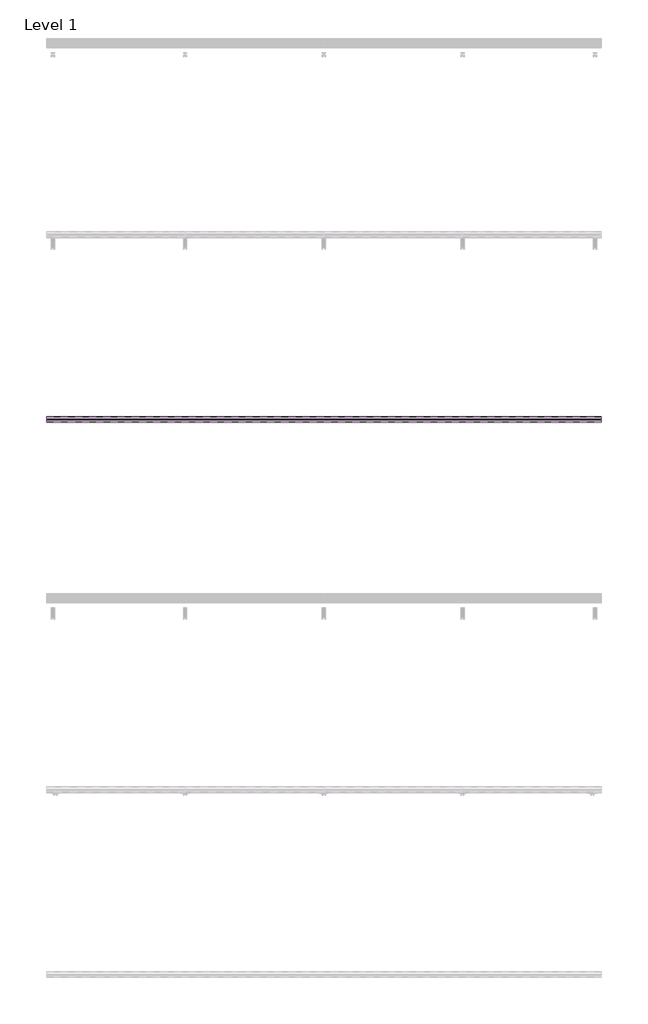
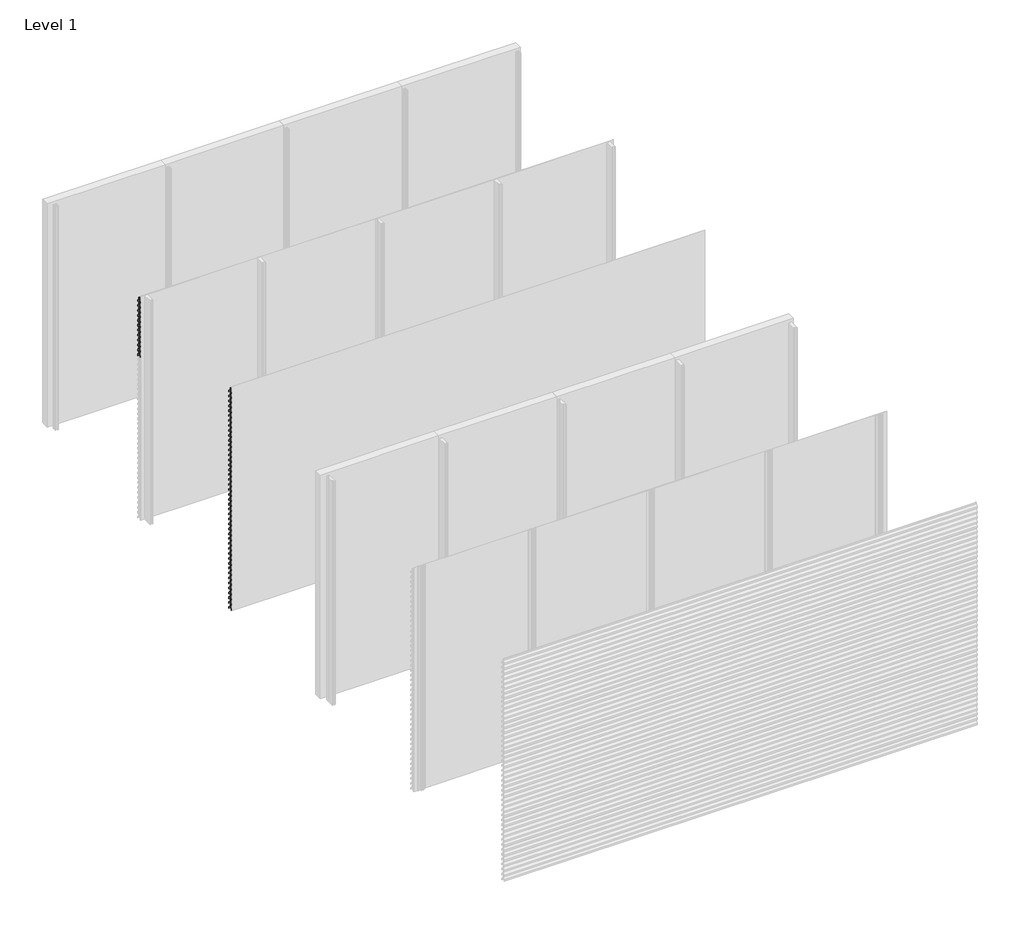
# One storey, part 6 of 35: 70 proxies.
"""IFC4 building model written with IfcOpenShell, lengths in millimetres."""

import ifcopenshell
import ifcopenshell.guid

model = None  # the IFC model being written
_history = None  # IfcOwnerHistory: only IFC2X3 demands one
_inside = {}  # id of a spatial element -> (the spatial element, [elements in it])
_under = {}  # id of a project, library or spatial element -> (it, [spatial elements below it])
_declared = {}  # id of a project -> (the project, [libraries it declares])
_typed = {}  # id of a type object -> (the type object, [elements of that type])
_made_of = {}  # id of a material, layer set ... -> (it, [elements and type objects made of it])


def new_model(schema):
    """Start an empty IFC model of exactly this schema.

    Asked for "IFC4X3", IfcOpenShell would pick the latest addendum, in which some entities
    have other attributes; the version numbers below select the first issue.
    IFC2X3 requires an IfcOwnerHistory on every rooted entity: one is made here for all.
    """
    global model, _history
    if schema == "IFC4X3":
        model = ifcopenshell.file(schema_version=(4, 3, 0, 0))
    else:
        model = ifcopenshell.file(schema=schema)
    _inside.clear()
    _under.clear()
    _declared.clear()
    _typed.clear()
    _made_of.clear()
    _history = None
    if model.schema == "IFC2X3":
        org = make("IfcOrganization", Name="unknown")
        user = make(
            "IfcPersonAndOrganization",
            ThePerson=make("IfcPerson", FamilyName="unknown"),
            TheOrganization=org,
        )
        app = make(
            "IfcApplication",
            ApplicationDeveloper=org,
            Version="unknown",
            ApplicationFullName="unknown",
            ApplicationIdentifier="unknown",
        )
        _history = make(
            "IfcOwnerHistory",
            OwningUser=user,
            OwningApplication=app,
            ChangeAction="ADDED",
            CreationDate=0,
        )
    return model


def make(cls, **values):
    """One entity of the class cls with the attributes given. An attribute that is None is left unset."""
    return model.create_entity(
        cls, **{name: value for name, value in values.items() if value is not None}
    )


def rooted(cls, **values):
    """An entity with a GlobalId (a new one), such as an element, a storey or a relation."""
    return make(cls, GlobalId=ifcopenshell.guid.new(), OwnerHistory=_history, **values)


def si_unit(unit_type, name, prefix=None):
    """IfcSIUnit, for example si_unit("LENGTHUNIT", "METRE", prefix="MILLI")."""
    return make("IfcSIUnit", UnitType=unit_type, Prefix=prefix, Name=name)


def assignment(units):
    """IfcUnitAssignment: the units of a project."""
    return None if units is None else make("IfcUnitAssignment", Units=units)


def point(xyz):
    """IfcCartesianPoint."""
    return None if xyz is None else make("IfcCartesianPoint", Coordinates=xyz)


def direction(xyz):
    """IfcDirection."""
    return None if xyz is None else make("IfcDirection", DirectionRatios=xyz)


def frame(location, z_axis=None, x_axis=None):
    """IfcAxis2Placement3D, a coordinate frame: its origin and axes. An axis left out is left unset."""
    return make(
        "IfcAxis2Placement3D",
        Location=point(location),
        Axis=direction(z_axis),
        RefDirection=direction(x_axis),
    )


def origin():
    """The frame at (0, 0, 0) with its axes left unset."""
    return frame((0.0, 0.0, 0.0))


def place(relative_to, where):
    """IfcLocalPlacement: puts the frame where relative to a parent placement (None: the world)."""
    return make(
        "IfcLocalPlacement", PlacementRelTo=relative_to, RelativePlacement=where
    )


def context(
    kind, dimensions, precision=None, world=None, true_north=None, identifier=None
):
    """IfcGeometricRepresentationContext, for example the 3D "Model" context."""
    return make(
        "IfcGeometricRepresentationContext",
        ContextIdentifier=identifier,
        ContextType=kind,
        CoordinateSpaceDimension=dimensions,
        Precision=precision,
        WorldCoordinateSystem=world,
        TrueNorth=true_north,
    )


def project(units=None, contexts=None):
    """IfcProject with its units and contexts."""
    return rooted(
        "IfcProject",
        Name="project",
        RepresentationContexts=contexts,
        UnitsInContext=assignment(units),
    )


def spatial(cls, under=None, at=None, **own):
    """A site, building, storey or space (cls), placed at a placement, below another one or the project."""
    s = rooted(cls, ObjectPlacement=at, **own)
    if under is not None:
        _under.setdefault(under.id(), (under, []))[1].append(s)
    return s


def polyline(points):
    """IfcPolyline through the points."""
    return make("IfcPolyline", Points=[point(p) for p in points])


def outline(outer, holes=None, kind="AREA"):
    """IfcArbitraryClosedProfileDef: a profile drawn as a closed curve; with holes, ...WithVoids."""
    if holes is None:
        return make("IfcArbitraryClosedProfileDef", ProfileType=kind, OuterCurve=outer)
    return make(
        "IfcArbitraryProfileDefWithVoids",
        ProfileType=kind,
        OuterCurve=outer,
        InnerCurves=holes,
    )


def extrude(swept, where, along, depth):
    """IfcExtrudedAreaSolid: the profile swept, set in the frame where, extruded along a direction by depth."""
    return make(
        "IfcExtrudedAreaSolid",
        SweptArea=swept,
        Position=where,
        ExtrudedDirection=direction(along),
        Depth=depth,
    )


def shape(context_of_items, identifier, shape_type, items):
    """IfcShapeRepresentation: the items that make up one representation, for example the "Body"."""
    return make(
        "IfcShapeRepresentation",
        ContextOfItems=context_of_items,
        RepresentationIdentifier=identifier,
        RepresentationType=shape_type,
        Items=items,
    )


def made_of(thing, what):
    """Note that an element or type object is made of a material, layer set ...; save() writes the relation."""
    if what is not None:
        _made_of.setdefault(what.id(), (what, []))[1].append(thing)
    return thing


def element(
    cls,
    number,
    at=None,
    inside=None,
    cuts=None,
    type_object=None,
    material=None,
    context=None,
    identifier="Body",
    shape_type=None,
    held_by="IfcProductDefinitionShape",
    body=None,
    shapes=None,
    **own,
):
    """One element of the class cls, such as IfcWall. Its Tag is "e" and its number.

    at: its placement. inside: the storey or other place that contains it. cuts: it is an
    opening in that element (IfcRelVoidsElement). A single representation is given by context,
    identifier, shape_type and body (its items); several are given by shapes. held_by: the class
    of the entity that holds the representations. save() writes the other relations.
    """
    e = rooted(cls, Tag="e%d" % number, ObjectPlacement=at, **own)
    if body is not None:
        shapes = [shape(context, identifier, shape_type, body)]
    if shapes is not None:
        e.Representation = make(held_by, Representations=shapes)
    if inside is not None:
        _inside.setdefault(inside.id(), (inside, []))[1].append(e)
    if cuts is not None:
        rooted(
            "IfcRelVoidsElement", RelatingBuildingElement=cuts, RelatedOpeningElement=e
        )
    if type_object is not None:
        _typed.setdefault(type_object.id(), (type_object, []))[1].append(e)
    return made_of(e, material)


def aggregate(whole, parts):
    """IfcRelAggregates: a whole, such as a stair, and the parts it consists of."""
    return rooted("IfcRelAggregates", RelatingObject=whole, RelatedObjects=parts)


def save(model, path):
    """Write the relations noted so far, then the file.

    IfcRelAggregates (storeys below a building ...), IfcRelContainedInSpatialStructure (elements
    in a storey), IfcRelDefinesByType, IfcRelAssociatesMaterial and IfcRelDeclares: one each for
    every whole, place, type object, material and project.
    """
    for whole, parts in _under.values():
        aggregate(whole, parts)
    for where, things in _inside.values():
        rooted(
            "IfcRelContainedInSpatialStructure",
            RelatedElements=things,
            RelatingStructure=where,
        )
    for kind, things in _typed.values():
        rooted("IfcRelDefinesByType", RelatedObjects=things, RelatingType=kind)
    for what, things in _made_of.values():
        rooted("IfcRelAssociatesMaterial", RelatedObjects=things, RelatingMaterial=what)
    for by, libraries in _declared.values():
        rooted("IfcRelDeclares", RelatingContext=by, RelatedDefinitions=libraries)
    model.write(path)


model = new_model("IFC4")

# Units and contexts
model_context = context("Model", 3, world=origin())
ifc_project = project(units=[si_unit("LENGTHUNIT", "METRE", prefix="MILLI")], contexts=[model_context])

# Site, building, storey
site = spatial("IfcSite", under=ifc_project)
building = spatial("IfcBuilding", under=site)
storey = spatial("IfcBuildingStorey", under=building, Name="Level 1", Elevation=0.0)

# Proxies
placement = place(None, origin())
element("IfcBuildingElementProxy", 1, Name="Wall Sweeps", at=placement, inside=storey, context=model_context, shape_type="SweptSolid", body=[
    extrude(outline(polyline([(-47936.0, 2916.0), (-47936.0, 2896.0), (-47937.25, 2896.0), (-47937.25, 2915.4342979), (-47968.1138939, 2948.531772), (-47996.7, 2928.4392868), (-47996.7, 2909.6629874), (-47998.0, 2908.8506572), (-47998.0, 2929.1145472), (-47968.537525, 2949.823011), (-47968.537525, 2970.0), (-47967.1772624, 2970.0), (-47967.1772624, 2949.4335207), (-47936.0, 2916.0)])), frame((0.0, 0.0, 0.0), z_axis=(1.0, 0.0, 0.0), x_axis=(0.0, 1.0, 0.0)), (0.0, 0.0, 1.0), 1500.0),
])
element("IfcBuildingElementProxy", 2, Name="Wall Sweeps", at=placement, inside=storey, context=model_context, shape_type="SweptSolid", body=[
    extrude(outline(polyline([(-47936.0, 2850.0), (-47936.0, 2830.0), (-47937.25, 2830.0), (-47937.25, 2849.4342979), (-47968.1138939, 2882.531772), (-47996.7, 2862.4392868), (-47996.7, 2843.6629874), (-47998.0, 2842.8506572), (-47998.0, 2863.1145472), (-47968.537525, 2883.823011), (-47968.537525, 2904.0), (-47967.1772624, 2904.0), (-47967.1772624, 2883.4335207), (-47936.0, 2850.0)])), frame((0.0, 0.0, 0.0), z_axis=(1.0, 0.0, 0.0), x_axis=(0.0, 1.0, 0.0)), (0.0, 0.0, 1.0), 1500.0),
])
element("IfcBuildingElementProxy", 3, Name="Wall Sweeps", at=placement, inside=storey, context=model_context, shape_type="SweptSolid", body=[
    extrude(outline(polyline([(-47936.0, 2784.0), (-47936.0, 2764.0), (-47937.25, 2764.0), (-47937.25, 2783.4342979), (-47968.1138939, 2816.531772), (-47996.7, 2796.4392868), (-47996.7, 2777.6629874), (-47998.0, 2776.8506572), (-47998.0, 2797.1145472), (-47968.537525, 2817.823011), (-47968.537525, 2838.0), (-47967.1772624, 2838.0), (-47967.1772624, 2817.4335207), (-47936.0, 2784.0)])), frame((0.0, 0.0, 0.0), z_axis=(1.0, 0.0, 0.0), x_axis=(0.0, 1.0, 0.0)), (0.0, 0.0, 1.0), 1500.0),
])
element("IfcBuildingElementProxy", 4, Name="Wall Sweeps", at=placement, inside=storey, context=model_context, shape_type="SweptSolid", body=[
    extrude(outline(polyline([(-47936.0, 2718.0), (-47936.0, 2698.0), (-47937.25, 2698.0), (-47937.25, 2717.4342979), (-47968.1138939, 2750.531772), (-47996.7, 2730.4392868), (-47996.7, 2711.6629874), (-47998.0, 2710.8506572), (-47998.0, 2731.1145472), (-47968.537525, 2751.823011), (-47968.537525, 2772.0), (-47967.1772624, 2772.0), (-47967.1772624, 2751.4335207), (-47936.0, 2718.0)])), frame((0.0, 0.0, 0.0), z_axis=(1.0, 0.0, 0.0), x_axis=(0.0, 1.0, 0.0)), (0.0, 0.0, 1.0), 1500.0),
])
element("IfcBuildingElementProxy", 5, Name="Wall Sweeps", at=placement, inside=storey, context=model_context, shape_type="SweptSolid", body=[
    extrude(outline(polyline([(-47936.0, 2652.0), (-47936.0, 2632.0), (-47937.25, 2632.0), (-47937.25, 2651.4342979), (-47968.1138939, 2684.531772), (-47996.7, 2664.4392868), (-47996.7, 2645.6629874), (-47998.0, 2644.8506572), (-47998.0, 2665.1145472), (-47968.537525, 2685.823011), (-47968.537525, 2706.0), (-47967.1772624, 2706.0), (-47967.1772624, 2685.4335207), (-47936.0, 2652.0)])), frame((0.0, 0.0, 0.0), z_axis=(1.0, 0.0, 0.0), x_axis=(0.0, 1.0, 0.0)), (0.0, 0.0, 1.0), 1500.0),
])
element("IfcBuildingElementProxy", 6, Name="Wall Sweeps", at=placement, inside=storey, context=model_context, shape_type="SweptSolid", body=[
    extrude(outline(polyline([(-47936.0, 2586.0), (-47936.0, 2566.0), (-47937.25, 2566.0), (-47937.25, 2585.4342979), (-47968.1138939, 2618.531772), (-47996.7, 2598.4392868), (-47996.7, 2579.6629874), (-47998.0, 2578.8506572), (-47998.0, 2599.1145472), (-47968.537525, 2619.823011), (-47968.537525, 2640.0), (-47967.1772624, 2640.0), (-47967.1772624, 2619.4335207), (-47936.0, 2586.0)])), frame((0.0, 0.0, 0.0), z_axis=(1.0, 0.0, 0.0), x_axis=(0.0, 1.0, 0.0)), (0.0, 0.0, 1.0), 1500.0),
])
element("IfcBuildingElementProxy", 7, Name="Wall Sweeps", at=placement, inside=storey, context=model_context, shape_type="SweptSolid", body=[
    extrude(outline(polyline([(-47936.0, 2520.0), (-47936.0, 2500.0), (-47937.25, 2500.0), (-47937.25, 2519.4342979), (-47968.1138939, 2552.531772), (-47996.7, 2532.4392868), (-47996.7, 2513.6629874), (-47998.0, 2512.8506572), (-47998.0, 2533.1145472), (-47968.537525, 2553.823011), (-47968.537525, 2574.0), (-47967.1772624, 2574.0), (-47967.1772624, 2553.4335207), (-47936.0, 2520.0)])), frame((0.0, 0.0, 0.0), z_axis=(1.0, 0.0, 0.0), x_axis=(0.0, 1.0, 0.0)), (0.0, 0.0, 1.0), 1500.0),
])
element("IfcBuildingElementProxy", 8, Name="Wall Sweeps", at=placement, inside=storey, context=model_context, shape_type="SweptSolid", body=[
    extrude(outline(polyline([(-47936.0, 2454.0), (-47936.0, 2434.0), (-47937.25, 2434.0), (-47937.25, 2453.4342979), (-47968.1138939, 2486.531772), (-47996.7, 2466.4392868), (-47996.7, 2447.6629874), (-47998.0, 2446.8506572), (-47998.0, 2467.1145472), (-47968.537525, 2487.823011), (-47968.537525, 2508.0), (-47967.1772624, 2508.0), (-47967.1772624, 2487.4335207), (-47936.0, 2454.0)])), frame((0.0, 0.0, 0.0), z_axis=(1.0, 0.0, 0.0), x_axis=(0.0, 1.0, 0.0)), (0.0, 0.0, 1.0), 1500.0),
])
element("IfcBuildingElementProxy", 9, Name="Wall Sweeps", at=placement, inside=storey, context=model_context, shape_type="SweptSolid", body=[
    extrude(outline(polyline([(-47936.0, 2388.0), (-47936.0, 2368.0), (-47937.25, 2368.0), (-47937.25, 2387.4342979), (-47968.1138939, 2420.531772), (-47996.7, 2400.4392868), (-47996.7, 2381.6629874), (-47998.0, 2380.8506572), (-47998.0, 2401.1145472), (-47968.537525, 2421.823011), (-47968.537525, 2442.0), (-47967.1772624, 2442.0), (-47967.1772624, 2421.4335207), (-47936.0, 2388.0)])), frame((0.0, 0.0, 0.0), z_axis=(1.0, 0.0, 0.0), x_axis=(0.0, 1.0, 0.0)), (0.0, 0.0, 1.0), 1500.0),
])
element("IfcBuildingElementProxy", 10, Name="Wall Sweeps", at=placement, inside=storey, context=model_context, shape_type="SweptSolid", body=[
    extrude(outline(polyline([(-47936.0, 2322.0), (-47936.0, 2302.0), (-47937.25, 2302.0), (-47937.25, 2321.4342979), (-47968.1138939, 2354.531772), (-47996.7, 2334.4392868), (-47996.7, 2315.6629874), (-47998.0, 2314.8506572), (-47998.0, 2335.1145472), (-47968.537525, 2355.823011), (-47968.537525, 2376.0), (-47967.1772624, 2376.0), (-47967.1772624, 2355.4335207), (-47936.0, 2322.0)])), frame((0.0, 0.0, 0.0), z_axis=(1.0, 0.0, 0.0), x_axis=(0.0, 1.0, 0.0)), (0.0, 0.0, 1.0), 1500.0),
])
element("IfcBuildingElementProxy", 11, Name="Wall Sweeps", at=placement, inside=storey, context=model_context, shape_type="SweptSolid", body=[
    extrude(outline(polyline([(-47936.0, 2256.0), (-47936.0, 2236.0), (-47937.25, 2236.0), (-47937.25, 2255.4342979), (-47968.1138939, 2288.531772), (-47996.7, 2268.4392868), (-47996.7, 2249.6629874), (-47998.0, 2248.8506572), (-47998.0, 2269.1145472), (-47968.537525, 2289.823011), (-47968.537525, 2310.0), (-47967.1772624, 2310.0), (-47967.1772624, 2289.4335207), (-47936.0, 2256.0)])), frame((0.0, 0.0, 0.0), z_axis=(1.0, 0.0, 0.0), x_axis=(0.0, 1.0, 0.0)), (0.0, 0.0, 1.0), 1500.0),
])
element("IfcBuildingElementProxy", 12, Name="Wall Sweeps", at=placement, inside=storey, context=model_context, shape_type="SweptSolid", body=[
    extrude(outline(polyline([(-47936.0, 2190.0), (-47936.0, 2170.0), (-47937.25, 2170.0), (-47937.25, 2189.4342979), (-47968.1138939, 2222.531772), (-47996.7, 2202.4392868), (-47996.7, 2183.6629874), (-47998.0, 2182.8506572), (-47998.0, 2203.1145472), (-47968.537525, 2223.823011), (-47968.537525, 2244.0), (-47967.1772624, 2244.0), (-47967.1772624, 2223.4335207), (-47936.0, 2190.0)])), frame((0.0, 0.0, 0.0), z_axis=(1.0, 0.0, 0.0), x_axis=(0.0, 1.0, 0.0)), (0.0, 0.0, 1.0), 1500.0),
])
element("IfcBuildingElementProxy", 13, Name="Wall Sweeps", at=placement, inside=storey, context=model_context, shape_type="SweptSolid", body=[
    extrude(outline(polyline([(-49936.0, 2916.0), (-49936.0, 2896.0), (-49937.25, 2896.0), (-49937.25, 2915.4342979), (-49968.1138939, 2948.531772), (-49996.7, 2928.4392868), (-49996.7, 2909.6629874), (-49998.0, 2908.8506572), (-49998.0, 2929.1145472), (-49968.537525, 2949.823011), (-49968.537525, 2970.0), (-49967.1772624, 2970.0), (-49967.1772624, 2949.4335207), (-49936.0, 2916.0)])), frame((0.0, 0.0, 0.0), z_axis=(1.0, 0.0, 0.0), x_axis=(0.0, 1.0, 0.0)), (0.0, 0.0, 1.0), 6000.0),
])
element("IfcBuildingElementProxy", 14, Name="Wall Sweeps", at=placement, inside=storey, context=model_context, shape_type="SweptSolid", body=[
    extrude(outline(polyline([(-49936.0, 2850.0), (-49936.0, 2830.0), (-49937.25, 2830.0), (-49937.25, 2849.4342979), (-49968.1138939, 2882.531772), (-49996.7, 2862.4392868), (-49996.7, 2843.6629874), (-49998.0, 2842.8506572), (-49998.0, 2863.1145472), (-49968.537525, 2883.823011), (-49968.537525, 2904.0), (-49967.1772624, 2904.0), (-49967.1772624, 2883.4335207), (-49936.0, 2850.0)])), frame((0.0, 0.0, 0.0), z_axis=(1.0, 0.0, 0.0), x_axis=(0.0, 1.0, 0.0)), (0.0, 0.0, 1.0), 6000.0),
])
element("IfcBuildingElementProxy", 15, Name="Wall Sweeps", at=placement, inside=storey, context=model_context, shape_type="SweptSolid", body=[
    extrude(outline(polyline([(-49936.0, 2784.0), (-49936.0, 2764.0), (-49937.25, 2764.0), (-49937.25, 2783.4342979), (-49968.1138939, 2816.531772), (-49996.7, 2796.4392868), (-49996.7, 2777.6629874), (-49998.0, 2776.8506572), (-49998.0, 2797.1145472), (-49968.537525, 2817.823011), (-49968.537525, 2838.0), (-49967.1772624, 2838.0), (-49967.1772624, 2817.4335207), (-49936.0, 2784.0)])), frame((0.0, 0.0, 0.0), z_axis=(1.0, 0.0, 0.0), x_axis=(0.0, 1.0, 0.0)), (0.0, 0.0, 1.0), 6000.0),
])
element("IfcBuildingElementProxy", 16, Name="Wall Sweeps", at=placement, inside=storey, context=model_context, shape_type="SweptSolid", body=[
    extrude(outline(polyline([(-49936.0, 2718.0), (-49936.0, 2698.0), (-49937.25, 2698.0), (-49937.25, 2717.4342979), (-49968.1138939, 2750.531772), (-49996.7, 2730.4392868), (-49996.7, 2711.6629874), (-49998.0, 2710.8506572), (-49998.0, 2731.1145472), (-49968.537525, 2751.823011), (-49968.537525, 2772.0), (-49967.1772624, 2772.0), (-49967.1772624, 2751.4335207), (-49936.0, 2718.0)])), frame((0.0, 0.0, 0.0), z_axis=(1.0, 0.0, 0.0), x_axis=(0.0, 1.0, 0.0)), (0.0, 0.0, 1.0), 6000.0),
])
element("IfcBuildingElementProxy", 17, Name="Wall Sweeps", at=placement, inside=storey, context=model_context, shape_type="SweptSolid", body=[
    extrude(outline(polyline([(-49936.0, 2652.0), (-49936.0, 2632.0), (-49937.25, 2632.0), (-49937.25, 2651.4342979), (-49968.1138939, 2684.531772), (-49996.7, 2664.4392868), (-49996.7, 2645.6629874), (-49998.0, 2644.8506572), (-49998.0, 2665.1145472), (-49968.537525, 2685.823011), (-49968.537525, 2706.0), (-49967.1772624, 2706.0), (-49967.1772624, 2685.4335207), (-49936.0, 2652.0)])), frame((0.0, 0.0, 0.0), z_axis=(1.0, 0.0, 0.0), x_axis=(0.0, 1.0, 0.0)), (0.0, 0.0, 1.0), 6000.0),
])
element("IfcBuildingElementProxy", 18, Name="Wall Sweeps", at=placement, inside=storey, context=model_context, shape_type="SweptSolid", body=[
    extrude(outline(polyline([(-49936.0, 2586.0), (-49936.0, 2566.0), (-49937.25, 2566.0), (-49937.25, 2585.4342979), (-49968.1138939, 2618.531772), (-49996.7, 2598.4392868), (-49996.7, 2579.6629874), (-49998.0, 2578.8506572), (-49998.0, 2599.1145472), (-49968.537525, 2619.823011), (-49968.537525, 2640.0), (-49967.1772624, 2640.0), (-49967.1772624, 2619.4335207), (-49936.0, 2586.0)])), frame((0.0, 0.0, 0.0), z_axis=(1.0, 0.0, 0.0), x_axis=(0.0, 1.0, 0.0)), (0.0, 0.0, 1.0), 6000.0),
])
element("IfcBuildingElementProxy", 19, Name="Wall Sweeps", at=placement, inside=storey, context=model_context, shape_type="SweptSolid", body=[
    extrude(outline(polyline([(-49936.0, 2520.0), (-49936.0, 2500.0), (-49937.25, 2500.0), (-49937.25, 2519.4342979), (-49968.1138939, 2552.531772), (-49996.7, 2532.4392868), (-49996.7, 2513.6629874), (-49998.0, 2512.8506572), (-49998.0, 2533.1145472), (-49968.537525, 2553.823011), (-49968.537525, 2574.0), (-49967.1772624, 2574.0), (-49967.1772624, 2553.4335207), (-49936.0, 2520.0)])), frame((0.0, 0.0, 0.0), z_axis=(1.0, 0.0, 0.0), x_axis=(0.0, 1.0, 0.0)), (0.0, 0.0, 1.0), 6000.0),
])
element("IfcBuildingElementProxy", 20, Name="Wall Sweeps", at=placement, inside=storey, context=model_context, shape_type="SweptSolid", body=[
    extrude(outline(polyline([(-49936.0, 2454.0), (-49936.0, 2434.0), (-49937.25, 2434.0), (-49937.25, 2453.4342979), (-49968.1138939, 2486.531772), (-49996.7, 2466.4392868), (-49996.7, 2447.6629874), (-49998.0, 2446.8506572), (-49998.0, 2467.1145472), (-49968.537525, 2487.823011), (-49968.537525, 2508.0), (-49967.1772624, 2508.0), (-49967.1772624, 2487.4335207), (-49936.0, 2454.0)])), frame((0.0, 0.0, 0.0), z_axis=(1.0, 0.0, 0.0), x_axis=(0.0, 1.0, 0.0)), (0.0, 0.0, 1.0), 6000.0),
])
element("IfcBuildingElementProxy", 21, Name="Wall Sweeps", at=placement, inside=storey, context=model_context, shape_type="SweptSolid", body=[
    extrude(outline(polyline([(-49936.0, 2388.0), (-49936.0, 2368.0), (-49937.25, 2368.0), (-49937.25, 2387.4342979), (-49968.1138939, 2420.531772), (-49996.7, 2400.4392868), (-49996.7, 2381.6629874), (-49998.0, 2380.8506572), (-49998.0, 2401.1145472), (-49968.537525, 2421.823011), (-49968.537525, 2442.0), (-49967.1772624, 2442.0), (-49967.1772624, 2421.4335207), (-49936.0, 2388.0)])), frame((0.0, 0.0, 0.0), z_axis=(1.0, 0.0, 0.0), x_axis=(0.0, 1.0, 0.0)), (0.0, 0.0, 1.0), 6000.0),
])
element("IfcBuildingElementProxy", 22, Name="Wall Sweeps", at=placement, inside=storey, context=model_context, shape_type="SweptSolid", body=[
    extrude(outline(polyline([(-49936.0, 2322.0), (-49936.0, 2302.0), (-49937.25, 2302.0), (-49937.25, 2321.4342979), (-49968.1138939, 2354.531772), (-49996.7, 2334.4392868), (-49996.7, 2315.6629874), (-49998.0, 2314.8506572), (-49998.0, 2335.1145472), (-49968.537525, 2355.823011), (-49968.537525, 2376.0), (-49967.1772624, 2376.0), (-49967.1772624, 2355.4335207), (-49936.0, 2322.0)])), frame((0.0, 0.0, 0.0), z_axis=(1.0, 0.0, 0.0), x_axis=(0.0, 1.0, 0.0)), (0.0, 0.0, 1.0), 6000.0),
])
element("IfcBuildingElementProxy", 23, Name="Wall Sweeps", at=placement, inside=storey, context=model_context, shape_type="SweptSolid", body=[
    extrude(outline(polyline([(-49936.0, 2256.0), (-49936.0, 2236.0), (-49937.25, 2236.0), (-49937.25, 2255.4342979), (-49968.1138939, 2288.531772), (-49996.7, 2268.4392868), (-49996.7, 2249.6629874), (-49998.0, 2248.8506572), (-49998.0, 2269.1145472), (-49968.537525, 2289.823011), (-49968.537525, 2310.0), (-49967.1772624, 2310.0), (-49967.1772624, 2289.4335207), (-49936.0, 2256.0)])), frame((0.0, 0.0, 0.0), z_axis=(1.0, 0.0, 0.0), x_axis=(0.0, 1.0, 0.0)), (0.0, 0.0, 1.0), 6000.0),
])
element("IfcBuildingElementProxy", 24, Name="Wall Sweeps", at=placement, inside=storey, context=model_context, shape_type="SweptSolid", body=[
    extrude(outline(polyline([(-49936.0, 2190.0), (-49936.0, 2170.0), (-49937.25, 2170.0), (-49937.25, 2189.4342979), (-49968.1138939, 2222.531772), (-49996.7, 2202.4392868), (-49996.7, 2183.6629874), (-49998.0, 2182.8506572), (-49998.0, 2203.1145472), (-49968.537525, 2223.823011), (-49968.537525, 2244.0), (-49967.1772624, 2244.0), (-49967.1772624, 2223.4335207), (-49936.0, 2190.0)])), frame((0.0, 0.0, 0.0), z_axis=(1.0, 0.0, 0.0), x_axis=(0.0, 1.0, 0.0)), (0.0, 0.0, 1.0), 6000.0),
])
element("IfcBuildingElementProxy", 25, Name="Wall Sweeps", at=placement, inside=storey, context=model_context, shape_type="SweptSolid", body=[
    extrude(outline(polyline([(-49936.0, 2124.0), (-49936.0, 2104.0), (-49937.25, 2104.0), (-49937.25, 2123.4342979), (-49968.1138939, 2156.531772), (-49996.7, 2136.4392868), (-49996.7, 2117.6629874), (-49998.0, 2116.8506572), (-49998.0, 2137.1145472), (-49968.537525, 2157.823011), (-49968.537525, 2178.0), (-49967.1772624, 2178.0), (-49967.1772624, 2157.4335207), (-49936.0, 2124.0)])), frame((0.0, 0.0, 0.0), z_axis=(1.0, 0.0, 0.0), x_axis=(0.0, 1.0, 0.0)), (0.0, 0.0, 1.0), 6000.0),
])
element("IfcBuildingElementProxy", 26, Name="Wall Sweeps", at=placement, inside=storey, context=model_context, shape_type="SweptSolid", body=[
    extrude(outline(polyline([(-49936.0, 2058.0), (-49936.0, 2038.0), (-49937.25, 2038.0), (-49937.25, 2057.4342979), (-49968.1138939, 2090.531772), (-49996.7, 2070.4392868), (-49996.7, 2051.6629874), (-49998.0, 2050.8506572), (-49998.0, 2071.1145472), (-49968.537525, 2091.823011), (-49968.537525, 2112.0), (-49967.1772624, 2112.0), (-49967.1772624, 2091.4335207), (-49936.0, 2058.0)])), frame((0.0, 0.0, 0.0), z_axis=(1.0, 0.0, 0.0), x_axis=(0.0, 1.0, 0.0)), (0.0, 0.0, 1.0), 6000.0),
])
element("IfcBuildingElementProxy", 27, Name="Wall Sweeps", at=placement, inside=storey, context=model_context, shape_type="SweptSolid", body=[
    extrude(outline(polyline([(-49936.0, 1992.0), (-49936.0, 1972.0), (-49937.25, 1972.0), (-49937.25, 1991.4342979), (-49968.1138939, 2024.531772), (-49996.7, 2004.4392868), (-49996.7, 1985.6629874), (-49998.0, 1984.8506572), (-49998.0, 2005.1145472), (-49968.537525, 2025.823011), (-49968.537525, 2046.0), (-49967.1772624, 2046.0), (-49967.1772624, 2025.4335207), (-49936.0, 1992.0)])), frame((0.0, 0.0, 0.0), z_axis=(1.0, 0.0, 0.0), x_axis=(0.0, 1.0, 0.0)), (0.0, 0.0, 1.0), 6000.0),
])
element("IfcBuildingElementProxy", 28, Name="Wall Sweeps", at=placement, inside=storey, context=model_context, shape_type="SweptSolid", body=[
    extrude(outline(polyline([(-49936.0, 1926.0), (-49936.0, 1906.0), (-49937.25, 1906.0), (-49937.25, 1925.4342979), (-49968.1138939, 1958.531772), (-49996.7, 1938.4392868), (-49996.7, 1919.6629874), (-49998.0, 1918.8506572), (-49998.0, 1939.1145472), (-49968.537525, 1959.823011), (-49968.537525, 1980.0), (-49967.1772624, 1980.0), (-49967.1772624, 1959.4335207), (-49936.0, 1926.0)])), frame((0.0, 0.0, 0.0), z_axis=(1.0, 0.0, 0.0), x_axis=(0.0, 1.0, 0.0)), (0.0, 0.0, 1.0), 6000.0),
])
element("IfcBuildingElementProxy", 29, Name="Wall Sweeps", at=placement, inside=storey, context=model_context, shape_type="SweptSolid", body=[
    extrude(outline(polyline([(-49936.0, 1860.0), (-49936.0, 1840.0), (-49937.25, 1840.0), (-49937.25, 1859.4342979), (-49968.1138939, 1892.531772), (-49996.7, 1872.4392868), (-49996.7, 1853.6629874), (-49998.0, 1852.8506572), (-49998.0, 1873.1145472), (-49968.537525, 1893.823011), (-49968.537525, 1914.0), (-49967.1772624, 1914.0), (-49967.1772624, 1893.4335207), (-49936.0, 1860.0)])), frame((0.0, 0.0, 0.0), z_axis=(1.0, 0.0, 0.0), x_axis=(0.0, 1.0, 0.0)), (0.0, 0.0, 1.0), 6000.0),
])
element("IfcBuildingElementProxy", 30, Name="Wall Sweeps", at=placement, inside=storey, context=model_context, shape_type="SweptSolid", body=[
    extrude(outline(polyline([(-49936.0, 1794.0), (-49936.0, 1774.0), (-49937.25, 1774.0), (-49937.25, 1793.4342979), (-49968.1138939, 1826.531772), (-49996.7, 1806.4392868), (-49996.7, 1787.6629874), (-49998.0, 1786.8506572), (-49998.0, 1807.1145472), (-49968.537525, 1827.823011), (-49968.537525, 1848.0), (-49967.1772624, 1848.0), (-49967.1772624, 1827.4335207), (-49936.0, 1794.0)])), frame((0.0, 0.0, 0.0), z_axis=(1.0, 0.0, 0.0), x_axis=(0.0, 1.0, 0.0)), (0.0, 0.0, 1.0), 6000.0),
])
element("IfcBuildingElementProxy", 31, Name="Wall Sweeps", at=placement, inside=storey, context=model_context, shape_type="SweptSolid", body=[
    extrude(outline(polyline([(-49936.0, 1728.0), (-49936.0, 1708.0), (-49937.25, 1708.0), (-49937.25, 1727.4342979), (-49968.1138939, 1760.531772), (-49996.7, 1740.4392868), (-49996.7, 1721.6629874), (-49998.0, 1720.8506572), (-49998.0, 1741.1145472), (-49968.537525, 1761.823011), (-49968.537525, 1782.0), (-49967.1772624, 1782.0), (-49967.1772624, 1761.4335207), (-49936.0, 1728.0)])), frame((0.0, 0.0, 0.0), z_axis=(1.0, 0.0, 0.0), x_axis=(0.0, 1.0, 0.0)), (0.0, 0.0, 1.0), 6000.0),
])
element("IfcBuildingElementProxy", 32, Name="Wall Sweeps", at=placement, inside=storey, context=model_context, shape_type="SweptSolid", body=[
    extrude(outline(polyline([(-49936.0, 1662.0), (-49936.0, 1642.0), (-49937.25, 1642.0), (-49937.25, 1661.4342979), (-49968.1138939, 1694.531772), (-49996.7, 1674.4392868), (-49996.7, 1655.6629874), (-49998.0, 1654.8506572), (-49998.0, 1675.1145472), (-49968.537525, 1695.823011), (-49968.537525, 1716.0), (-49967.1772624, 1716.0), (-49967.1772624, 1695.4335207), (-49936.0, 1662.0)])), frame((0.0, 0.0, 0.0), z_axis=(1.0, 0.0, 0.0), x_axis=(0.0, 1.0, 0.0)), (0.0, 0.0, 1.0), 6000.0),
])
element("IfcBuildingElementProxy", 33, Name="Wall Sweeps", at=placement, inside=storey, context=model_context, shape_type="SweptSolid", body=[
    extrude(outline(polyline([(-49936.0, 1596.0), (-49936.0, 1576.0), (-49937.25, 1576.0), (-49937.25, 1595.4342979), (-49968.1138939, 1628.531772), (-49996.7, 1608.4392868), (-49996.7, 1589.6629874), (-49998.0, 1588.8506572), (-49998.0, 1609.1145472), (-49968.537525, 1629.823011), (-49968.537525, 1650.0), (-49967.1772624, 1650.0), (-49967.1772624, 1629.4335207), (-49936.0, 1596.0)])), frame((0.0, 0.0, 0.0), z_axis=(1.0, 0.0, 0.0), x_axis=(0.0, 1.0, 0.0)), (0.0, 0.0, 1.0), 6000.0),
])
element("IfcBuildingElementProxy", 34, Name="Wall Sweeps", at=placement, inside=storey, context=model_context, shape_type="SweptSolid", body=[
    extrude(outline(polyline([(-49936.0, 1530.0), (-49936.0, 1510.0), (-49937.25, 1510.0), (-49937.25, 1529.4342979), (-49968.1138939, 1562.531772), (-49996.7, 1542.4392868), (-49996.7, 1523.6629874), (-49998.0, 1522.8506572), (-49998.0, 1543.1145472), (-49968.537525, 1563.823011), (-49968.537525, 1584.0), (-49967.1772624, 1584.0), (-49967.1772624, 1563.4335207), (-49936.0, 1530.0)])), frame((0.0, 0.0, 0.0), z_axis=(1.0, 0.0, 0.0), x_axis=(0.0, 1.0, 0.0)), (0.0, 0.0, 1.0), 6000.0),
])
element("IfcBuildingElementProxy", 35, Name="Wall Sweeps", at=placement, inside=storey, context=model_context, shape_type="SweptSolid", body=[
    extrude(outline(polyline([(-49936.0, 1464.0), (-49936.0, 1444.0), (-49937.25, 1444.0), (-49937.25, 1463.4342979), (-49968.1138939, 1496.531772), (-49996.7, 1476.4392868), (-49996.7, 1457.6629874), (-49998.0, 1456.8506572), (-49998.0, 1477.1145472), (-49968.537525, 1497.823011), (-49968.537525, 1518.0), (-49967.1772624, 1518.0), (-49967.1772624, 1497.4335207), (-49936.0, 1464.0)])), frame((0.0, 0.0, 0.0), z_axis=(1.0, 0.0, 0.0), x_axis=(0.0, 1.0, 0.0)), (0.0, 0.0, 1.0), 6000.0),
])
element("IfcBuildingElementProxy", 36, Name="Wall Sweeps", at=placement, inside=storey, context=model_context, shape_type="SweptSolid", body=[
    extrude(outline(polyline([(-49936.0, 1398.0), (-49936.0, 1378.0), (-49937.25, 1378.0), (-49937.25, 1397.4342979), (-49968.1138939, 1430.531772), (-49996.7, 1410.4392868), (-49996.7, 1391.6629874), (-49998.0, 1390.8506572), (-49998.0, 1411.1145472), (-49968.537525, 1431.823011), (-49968.537525, 1452.0), (-49967.1772624, 1452.0), (-49967.1772624, 1431.4335207), (-49936.0, 1398.0)])), frame((0.0, 0.0, 0.0), z_axis=(1.0, 0.0, 0.0), x_axis=(0.0, 1.0, 0.0)), (0.0, 0.0, 1.0), 6000.0),
])
element("IfcBuildingElementProxy", 37, Name="Wall Sweeps", at=placement, inside=storey, context=model_context, shape_type="SweptSolid", body=[
    extrude(outline(polyline([(-49936.0, 1332.0), (-49936.0, 1312.0), (-49937.25, 1312.0), (-49937.25, 1331.4342979), (-49968.1138939, 1364.531772), (-49996.7, 1344.4392868), (-49996.7, 1325.6629874), (-49998.0, 1324.8506572), (-49998.0, 1345.1145472), (-49968.537525, 1365.823011), (-49968.537525, 1386.0), (-49967.1772624, 1386.0), (-49967.1772624, 1365.4335207), (-49936.0, 1332.0)])), frame((0.0, 0.0, 0.0), z_axis=(1.0, 0.0, 0.0), x_axis=(0.0, 1.0, 0.0)), (0.0, 0.0, 1.0), 6000.0),
])
element("IfcBuildingElementProxy", 38, Name="Wall Sweeps", at=placement, inside=storey, context=model_context, shape_type="SweptSolid", body=[
    extrude(outline(polyline([(-49936.0, 1266.0), (-49936.0, 1246.0), (-49937.25, 1246.0), (-49937.25, 1265.4342979), (-49968.1138939, 1298.531772), (-49996.7, 1278.4392868), (-49996.7, 1259.6629874), (-49998.0, 1258.8506572), (-49998.0, 1279.1145472), (-49968.537525, 1299.823011), (-49968.537525, 1320.0), (-49967.1772624, 1320.0), (-49967.1772624, 1299.4335207), (-49936.0, 1266.0)])), frame((0.0, 0.0, 0.0), z_axis=(1.0, 0.0, 0.0), x_axis=(0.0, 1.0, 0.0)), (0.0, 0.0, 1.0), 6000.0),
])
element("IfcBuildingElementProxy", 39, Name="Wall Sweeps", at=placement, inside=storey, context=model_context, shape_type="SweptSolid", body=[
    extrude(outline(polyline([(-49936.0, 1200.0), (-49936.0, 1180.0), (-49937.25, 1180.0), (-49937.25, 1199.4342979), (-49968.1138939, 1232.531772), (-49996.7, 1212.4392868), (-49996.7, 1193.6629874), (-49998.0, 1192.8506572), (-49998.0, 1213.1145472), (-49968.537525, 1233.823011), (-49968.537525, 1254.0), (-49967.1772624, 1254.0), (-49967.1772624, 1233.4335207), (-49936.0, 1200.0)])), frame((0.0, 0.0, 0.0), z_axis=(1.0, 0.0, 0.0), x_axis=(0.0, 1.0, 0.0)), (0.0, 0.0, 1.0), 6000.0),
])
element("IfcBuildingElementProxy", 40, Name="Wall Sweeps", at=placement, inside=storey, context=model_context, shape_type="SweptSolid", body=[
    extrude(outline(polyline([(-49936.0, 1134.0), (-49936.0, 1114.0), (-49937.25, 1114.0), (-49937.25, 1133.4342979), (-49968.1138939, 1166.531772), (-49996.7, 1146.4392868), (-49996.7, 1127.6629874), (-49998.0, 1126.8506572), (-49998.0, 1147.1145472), (-49968.537525, 1167.823011), (-49968.537525, 1188.0), (-49967.1772624, 1188.0), (-49967.1772624, 1167.4335207), (-49936.0, 1134.0)])), frame((0.0, 0.0, 0.0), z_axis=(1.0, 0.0, 0.0), x_axis=(0.0, 1.0, 0.0)), (0.0, 0.0, 1.0), 6000.0),
])
element("IfcBuildingElementProxy", 41, Name="Wall Sweeps", at=placement, inside=storey, context=model_context, shape_type="SweptSolid", body=[
    extrude(outline(polyline([(-49936.0, 1068.0), (-49936.0, 1048.0), (-49937.25, 1048.0), (-49937.25, 1067.4342979), (-49968.1138939, 1100.531772), (-49996.7, 1080.4392868), (-49996.7, 1061.6629874), (-49998.0, 1060.8506572), (-49998.0, 1081.1145472), (-49968.537525, 1101.823011), (-49968.537525, 1122.0), (-49967.1772624, 1122.0), (-49967.1772624, 1101.4335207), (-49936.0, 1068.0)])), frame((0.0, 0.0, 0.0), z_axis=(1.0, 0.0, 0.0), x_axis=(0.0, 1.0, 0.0)), (0.0, 0.0, 1.0), 6000.0),
])
element("IfcBuildingElementProxy", 42, Name="Wall Sweeps", at=placement, inside=storey, context=model_context, shape_type="SweptSolid", body=[
    extrude(outline(polyline([(-49936.0, 1002.0), (-49936.0, 982.0), (-49937.25, 982.0), (-49937.25, 1001.4342979), (-49968.1138939, 1034.531772), (-49996.7, 1014.4392868), (-49996.7, 995.6629874), (-49998.0, 994.8506572), (-49998.0, 1015.1145472), (-49968.537525, 1035.823011), (-49968.537525, 1056.0), (-49967.1772624, 1056.0), (-49967.1772624, 1035.4335207), (-49936.0, 1002.0)])), frame((0.0, 0.0, 0.0), z_axis=(1.0, 0.0, 0.0), x_axis=(0.0, 1.0, 0.0)), (0.0, 0.0, 1.0), 6000.0),
])
element("IfcBuildingElementProxy", 43, Name="Wall Sweeps", at=placement, inside=storey, context=model_context, shape_type="SweptSolid", body=[
    extrude(outline(polyline([(-49936.0, 936.0), (-49936.0, 916.0), (-49937.25, 916.0), (-49937.25, 935.4342979), (-49968.1138939, 968.531772), (-49996.7, 948.4392868), (-49996.7, 929.6629874), (-49998.0, 928.8506572), (-49998.0, 949.1145472), (-49968.537525, 969.823011), (-49968.537525, 990.0), (-49967.1772624, 990.0), (-49967.1772624, 969.4335207), (-49936.0, 936.0)])), frame((0.0, 0.0, 0.0), z_axis=(1.0, 0.0, 0.0), x_axis=(0.0, 1.0, 0.0)), (0.0, 0.0, 1.0), 6000.0),
])
element("IfcBuildingElementProxy", 44, Name="Wall Sweeps", at=placement, inside=storey, context=model_context, shape_type="SweptSolid", body=[
    extrude(outline(polyline([(-49936.0, 870.0), (-49936.0, 850.0), (-49937.25, 850.0), (-49937.25, 869.4342979), (-49968.1138939, 902.531772), (-49996.7, 882.4392868), (-49996.7, 863.6629874), (-49998.0, 862.8506572), (-49998.0, 883.1145472), (-49968.537525, 903.823011), (-49968.537525, 924.0), (-49967.1772624, 924.0), (-49967.1772624, 903.4335207), (-49936.0, 870.0)])), frame((0.0, 0.0, 0.0), z_axis=(1.0, 0.0, 0.0), x_axis=(0.0, 1.0, 0.0)), (0.0, 0.0, 1.0), 6000.0),
])
element("IfcBuildingElementProxy", 45, Name="Wall Sweeps", at=placement, inside=storey, context=model_context, shape_type="SweptSolid", body=[
    extrude(outline(polyline([(-49936.0, 804.0), (-49936.0, 784.0), (-49937.25, 784.0), (-49937.25, 803.4342979), (-49968.1138939, 836.531772), (-49996.7, 816.4392868), (-49996.7, 797.6629874), (-49998.0, 796.8506572), (-49998.0, 817.1145472), (-49968.537525, 837.823011), (-49968.537525, 858.0), (-49967.1772624, 858.0), (-49967.1772624, 837.4335207), (-49936.0, 804.0)])), frame((0.0, 0.0, 0.0), z_axis=(1.0, 0.0, 0.0), x_axis=(0.0, 1.0, 0.0)), (0.0, 0.0, 1.0), 6000.0),
])
element("IfcBuildingElementProxy", 46, Name="Wall Sweeps", at=placement, inside=storey, context=model_context, shape_type="SweptSolid", body=[
    extrude(outline(polyline([(-49936.0, 738.0), (-49936.0, 718.0), (-49937.25, 718.0), (-49937.25, 737.4342979), (-49968.1138939, 770.531772), (-49996.7, 750.4392868), (-49996.7, 731.6629874), (-49998.0, 730.8506572), (-49998.0, 751.1145472), (-49968.537525, 771.823011), (-49968.537525, 792.0), (-49967.1772624, 792.0), (-49967.1772624, 771.4335207), (-49936.0, 738.0)])), frame((0.0, 0.0, 0.0), z_axis=(1.0, 0.0, 0.0), x_axis=(0.0, 1.0, 0.0)), (0.0, 0.0, 1.0), 6000.0),
])
element("IfcBuildingElementProxy", 47, Name="Wall Sweeps", at=placement, inside=storey, context=model_context, shape_type="SweptSolid", body=[
    extrude(outline(polyline([(-49936.0, 672.0), (-49936.0, 652.0), (-49937.25, 652.0), (-49937.25, 671.4342979), (-49968.1138939, 704.531772), (-49996.7, 684.4392868), (-49996.7, 665.6629874), (-49998.0, 664.8506572), (-49998.0, 685.1145472), (-49968.537525, 705.823011), (-49968.537525, 726.0), (-49967.1772624, 726.0), (-49967.1772624, 705.4335207), (-49936.0, 672.0)])), frame((0.0, 0.0, 0.0), z_axis=(1.0, 0.0, 0.0), x_axis=(0.0, 1.0, 0.0)), (0.0, 0.0, 1.0), 6000.0),
])
element("IfcBuildingElementProxy", 48, Name="Wall Sweeps", at=placement, inside=storey, context=model_context, shape_type="SweptSolid", body=[
    extrude(outline(polyline([(-49936.0, 606.0), (-49936.0, 586.0), (-49937.25, 586.0), (-49937.25, 605.4342979), (-49968.1138939, 638.531772), (-49996.7, 618.4392868), (-49996.7, 599.6629874), (-49998.0, 598.8506572), (-49998.0, 619.1145472), (-49968.537525, 639.823011), (-49968.537525, 660.0), (-49967.1772624, 660.0), (-49967.1772624, 639.4335207), (-49936.0, 606.0)])), frame((0.0, 0.0, 0.0), z_axis=(1.0, 0.0, 0.0), x_axis=(0.0, 1.0, 0.0)), (0.0, 0.0, 1.0), 6000.0),
])
element("IfcBuildingElementProxy", 49, Name="Wall Sweeps", at=placement, inside=storey, context=model_context, shape_type="SweptSolid", body=[
    extrude(outline(polyline([(-49936.0, 540.0), (-49936.0, 520.0), (-49937.25, 520.0), (-49937.25, 539.4342979), (-49968.1138939, 572.531772), (-49996.7, 552.4392868), (-49996.7, 533.6629874), (-49998.0, 532.8506572), (-49998.0, 553.1145472), (-49968.537525, 573.823011), (-49968.537525, 594.0), (-49967.1772624, 594.0), (-49967.1772624, 573.4335207), (-49936.0, 540.0)])), frame((0.0, 0.0, 0.0), z_axis=(1.0, 0.0, 0.0), x_axis=(0.0, 1.0, 0.0)), (0.0, 0.0, 1.0), 6000.0),
])
element("IfcBuildingElementProxy", 50, Name="Wall Sweeps", at=placement, inside=storey, context=model_context, shape_type="SweptSolid", body=[
    extrude(outline(polyline([(-49936.0, 474.0), (-49936.0, 454.0), (-49937.25, 454.0), (-49937.25, 473.4342979), (-49968.1138939, 506.531772), (-49996.7, 486.4392868), (-49996.7, 467.6629874), (-49998.0, 466.8506572), (-49998.0, 487.1145472), (-49968.537525, 507.823011), (-49968.537525, 528.0), (-49967.1772624, 528.0), (-49967.1772624, 507.4335207), (-49936.0, 474.0)])), frame((0.0, 0.0, 0.0), z_axis=(1.0, 0.0, 0.0), x_axis=(0.0, 1.0, 0.0)), (0.0, 0.0, 1.0), 6000.0),
])
element("IfcBuildingElementProxy", 51, Name="Wall Sweeps", at=placement, inside=storey, context=model_context, shape_type="SweptSolid", body=[
    extrude(outline(polyline([(-49936.0, 408.0), (-49936.0, 388.0), (-49937.25, 388.0), (-49937.25, 407.4342979), (-49968.1138939, 440.531772), (-49996.7, 420.4392868), (-49996.7, 401.6629874), (-49998.0, 400.8506572), (-49998.0, 421.1145472), (-49968.537525, 441.823011), (-49968.537525, 462.0), (-49967.1772624, 462.0), (-49967.1772624, 441.4335207), (-49936.0, 408.0)])), frame((0.0, 0.0, 0.0), z_axis=(1.0, 0.0, 0.0), x_axis=(0.0, 1.0, 0.0)), (0.0, 0.0, 1.0), 6000.0),
])
element("IfcBuildingElementProxy", 52, Name="Wall Sweeps", at=placement, inside=storey, context=model_context, shape_type="SweptSolid", body=[
    extrude(outline(polyline([(-49936.0, 342.0), (-49936.0, 322.0), (-49937.25, 322.0), (-49937.25, 341.4342979), (-49968.1138939, 374.531772), (-49996.7, 354.4392868), (-49996.7, 335.6629874), (-49998.0, 334.8506572), (-49998.0, 355.1145472), (-49968.537525, 375.823011), (-49968.537525, 396.0), (-49967.1772624, 396.0), (-49967.1772624, 375.4335207), (-49936.0, 342.0)])), frame((0.0, 0.0, 0.0), z_axis=(1.0, 0.0, 0.0), x_axis=(0.0, 1.0, 0.0)), (0.0, 0.0, 1.0), 6000.0),
])
element("IfcBuildingElementProxy", 53, Name="Wall Sweeps", at=placement, inside=storey, context=model_context, shape_type="SweptSolid", body=[
    extrude(outline(polyline([(-49936.0, 276.0), (-49936.0, 256.0), (-49937.25, 256.0), (-49937.25, 275.4342979), (-49968.1138939, 308.531772), (-49996.7, 288.4392868), (-49996.7, 269.6629874), (-49998.0, 268.8506572), (-49998.0, 289.1145472), (-49968.537525, 309.823011), (-49968.537525, 330.0), (-49967.1772624, 330.0), (-49967.1772624, 309.4335207), (-49936.0, 276.0)])), frame((0.0, 0.0, 0.0), z_axis=(1.0, 0.0, 0.0), x_axis=(0.0, 1.0, 0.0)), (0.0, 0.0, 1.0), 6000.0),
])
element("IfcBuildingElementProxy", 54, Name="Wall Sweeps", at=placement, inside=storey, context=model_context, shape_type="SweptSolid", body=[
    extrude(outline(polyline([(-49936.0, 210.0), (-49936.0, 190.0), (-49937.25, 190.0), (-49937.25, 209.4342979), (-49968.1138939, 242.531772), (-49996.7, 222.4392868), (-49996.7, 203.6629874), (-49998.0, 202.8506572), (-49998.0, 223.1145472), (-49968.537525, 243.823011), (-49968.537525, 264.0), (-49967.1772624, 264.0), (-49967.1772624, 243.4335207), (-49936.0, 210.0)])), frame((0.0, 0.0, 0.0), z_axis=(1.0, 0.0, 0.0), x_axis=(0.0, 1.0, 0.0)), (0.0, 0.0, 1.0), 6000.0),
])
element("IfcBuildingElementProxy", 55, Name="Wall Sweeps", at=placement, inside=storey, context=model_context, shape_type="SweptSolid", body=[
    extrude(outline(polyline([(-49936.0, 144.0), (-49936.0, 124.0), (-49937.25, 124.0), (-49937.25, 143.4342979), (-49968.1138939, 176.531772), (-49996.7, 156.4392868), (-49996.7, 137.6629874), (-49998.0, 136.8506572), (-49998.0, 157.1145472), (-49968.537525, 177.823011), (-49968.537525, 198.0), (-49967.1772624, 198.0), (-49967.1772624, 177.4335207), (-49936.0, 144.0)])), frame((0.0, 0.0, 0.0), z_axis=(1.0, 0.0, 0.0), x_axis=(0.0, 1.0, 0.0)), (0.0, 0.0, 1.0), 6000.0),
])
element("IfcBuildingElementProxy", 56, Name="Wall Sweeps", at=placement, inside=storey, context=model_context, shape_type="SweptSolid", body=[
    extrude(outline(polyline([(-49936.0, 78.0), (-49936.0, 58.0), (-49937.25, 58.0), (-49937.25, 77.4342979), (-49968.1138939, 110.531772), (-49996.7, 90.4392868), (-49996.7, 71.6629874), (-49998.0, 70.8506572), (-49998.0, 91.1145472), (-49968.537525, 111.823011), (-49968.537525, 132.0), (-49967.1772624, 132.0), (-49967.1772624, 111.4335207), (-49936.0, 78.0)])), frame((0.0, 0.0, 0.0), z_axis=(1.0, 0.0, 0.0), x_axis=(0.0, 1.0, 0.0)), (0.0, 0.0, 1.0), 6000.0),
])
element("IfcBuildingElementProxy", 57, Name="Wall Sweeps", at=placement, inside=storey, context=model_context, shape_type="SweptSolid", body=[
    extrude(outline(polyline([(-49936.0, 12.0), (-49936.0, -8.0), (-49937.25, -8.0), (-49937.25, 11.4342979), (-49968.1138939, 44.531772), (-49996.7, 24.4392868), (-49996.7, 5.6629874), (-49998.0, 4.8506572), (-49998.0, 25.1145472), (-49968.537525, 45.823011), (-49968.537525, 66.0), (-49967.1772624, 66.0), (-49967.1772624, 45.4335207), (-49936.0, 12.0)])), frame((0.0, 0.0, 0.0), z_axis=(1.0, 0.0, 0.0), x_axis=(0.0, 1.0, 0.0)), (0.0, 0.0, 1.0), 6000.0),
])
element("IfcBuildingElementProxy", 58, Name="Wall Sweeps", at=placement, inside=storey, context=model_context, shape_type="SweptSolid", body=[
    extrude(outline(polyline([(-53936.0, 804.0), (-53936.0, 784.0), (-53937.25, 784.0), (-53937.25, 803.4342979), (-53968.1138939, 836.531772), (-53996.7, 816.4392868), (-53996.7, 797.6629874), (-53998.0, 796.8506572), (-53998.0, 817.1145472), (-53968.537525, 837.823011), (-53968.537525, 858.0), (-53967.1772624, 858.0), (-53967.1772624, 837.4335207), (-53936.0, 804.0)])), frame((4500.0, 0.0, 0.0), z_axis=(1.0, 0.0, 0.0), x_axis=(0.0, 1.0, 0.0)), (0.0, 0.0, 1.0), 1500.0),
])
element("IfcBuildingElementProxy", 59, Name="Wall Sweeps", at=placement, inside=storey, context=model_context, shape_type="SweptSolid", body=[
    extrude(outline(polyline([(-53936.0, 738.0), (-53936.0, 718.0), (-53937.25, 718.0), (-53937.25, 737.4342979), (-53968.1138939, 770.531772), (-53996.7, 750.4392868), (-53996.7, 731.6629874), (-53998.0, 730.8506572), (-53998.0, 751.1145472), (-53968.537525, 771.823011), (-53968.537525, 792.0), (-53967.1772624, 792.0), (-53967.1772624, 771.4335207), (-53936.0, 738.0)])), frame((4500.0, 0.0, 0.0), z_axis=(1.0, 0.0, 0.0), x_axis=(0.0, 1.0, 0.0)), (0.0, 0.0, 1.0), 1500.0),
])
element("IfcBuildingElementProxy", 60, Name="Wall Sweeps", at=placement, inside=storey, context=model_context, shape_type="SweptSolid", body=[
    extrude(outline(polyline([(-53936.0, 672.0), (-53936.0, 652.0), (-53937.25, 652.0), (-53937.25, 671.4342979), (-53968.1138939, 704.531772), (-53996.7, 684.4392868), (-53996.7, 665.6629874), (-53998.0, 664.8506572), (-53998.0, 685.1145472), (-53968.537525, 705.823011), (-53968.537525, 726.0), (-53967.1772624, 726.0), (-53967.1772624, 705.4335207), (-53936.0, 672.0)])), frame((4500.0, 0.0, 0.0), z_axis=(1.0, 0.0, 0.0), x_axis=(0.0, 1.0, 0.0)), (0.0, 0.0, 1.0), 1500.0),
])
element("IfcBuildingElementProxy", 61, Name="Wall Sweeps", at=placement, inside=storey, context=model_context, shape_type="SweptSolid", body=[
    extrude(outline(polyline([(-53936.0, 606.0), (-53936.0, 586.0), (-53937.25, 586.0), (-53937.25, 605.4342979), (-53968.1138939, 638.531772), (-53996.7, 618.4392868), (-53996.7, 599.6629874), (-53998.0, 598.8506572), (-53998.0, 619.1145472), (-53968.537525, 639.823011), (-53968.537525, 660.0), (-53967.1772624, 660.0), (-53967.1772624, 639.4335207), (-53936.0, 606.0)])), frame((4500.0, 0.0, 0.0), z_axis=(1.0, 0.0, 0.0), x_axis=(0.0, 1.0, 0.0)), (0.0, 0.0, 1.0), 1500.0),
])
element("IfcBuildingElementProxy", 62, Name="Wall Sweeps", at=placement, inside=storey, context=model_context, shape_type="SweptSolid", body=[
    extrude(outline(polyline([(-53936.0, 540.0), (-53936.0, 520.0), (-53937.25, 520.0), (-53937.25, 539.4342979), (-53968.1138939, 572.531772), (-53996.7, 552.4392868), (-53996.7, 533.6629874), (-53998.0, 532.8506572), (-53998.0, 553.1145472), (-53968.537525, 573.823011), (-53968.537525, 594.0), (-53967.1772624, 594.0), (-53967.1772624, 573.4335207), (-53936.0, 540.0)])), frame((4500.0, 0.0, 0.0), z_axis=(1.0, 0.0, 0.0), x_axis=(0.0, 1.0, 0.0)), (0.0, 0.0, 1.0), 1500.0),
])
element("IfcBuildingElementProxy", 63, Name="Wall Sweeps", at=placement, inside=storey, context=model_context, shape_type="SweptSolid", body=[
    extrude(outline(polyline([(-53936.0, 474.0), (-53936.0, 454.0), (-53937.25, 454.0), (-53937.25, 473.4342979), (-53968.1138939, 506.531772), (-53996.7, 486.4392868), (-53996.7, 467.6629874), (-53998.0, 466.8506572), (-53998.0, 487.1145472), (-53968.537525, 507.823011), (-53968.537525, 528.0), (-53967.1772624, 528.0), (-53967.1772624, 507.4335207), (-53936.0, 474.0)])), frame((4500.0, 0.0, 0.0), z_axis=(1.0, 0.0, 0.0), x_axis=(0.0, 1.0, 0.0)), (0.0, 0.0, 1.0), 1500.0),
])
element("IfcBuildingElementProxy", 64, Name="Wall Sweeps", at=placement, inside=storey, context=model_context, shape_type="SweptSolid", body=[
    extrude(outline(polyline([(-53936.0, 408.0), (-53936.0, 388.0), (-53937.25, 388.0), (-53937.25, 407.4342979), (-53968.1138939, 440.531772), (-53996.7, 420.4392868), (-53996.7, 401.6629874), (-53998.0, 400.8506572), (-53998.0, 421.1145472), (-53968.537525, 441.823011), (-53968.537525, 462.0), (-53967.1772624, 462.0), (-53967.1772624, 441.4335207), (-53936.0, 408.0)])), frame((4500.0, 0.0, 0.0), z_axis=(1.0, 0.0, 0.0), x_axis=(0.0, 1.0, 0.0)), (0.0, 0.0, 1.0), 1500.0),
])
element("IfcBuildingElementProxy", 65, Name="Wall Sweeps", at=placement, inside=storey, context=model_context, shape_type="SweptSolid", body=[
    extrude(outline(polyline([(-53936.0, 342.0), (-53936.0, 322.0), (-53937.25, 322.0), (-53937.25, 341.4342979), (-53968.1138939, 374.531772), (-53996.7, 354.4392868), (-53996.7, 335.6629874), (-53998.0, 334.8506572), (-53998.0, 355.1145472), (-53968.537525, 375.823011), (-53968.537525, 396.0), (-53967.1772624, 396.0), (-53967.1772624, 375.4335207), (-53936.0, 342.0)])), frame((4500.0, 0.0, 0.0), z_axis=(1.0, 0.0, 0.0), x_axis=(0.0, 1.0, 0.0)), (0.0, 0.0, 1.0), 1500.0),
])
element("IfcBuildingElementProxy", 66, Name="Wall Sweeps", at=placement, inside=storey, context=model_context, shape_type="SweptSolid", body=[
    extrude(outline(polyline([(-53936.0, 276.0), (-53936.0, 256.0), (-53937.25, 256.0), (-53937.25, 275.4342979), (-53968.1138939, 308.531772), (-53996.7, 288.4392868), (-53996.7, 269.6629874), (-53998.0, 268.8506572), (-53998.0, 289.1145472), (-53968.537525, 309.823011), (-53968.537525, 330.0), (-53967.1772624, 330.0), (-53967.1772624, 309.4335207), (-53936.0, 276.0)])), frame((4500.0, 0.0, 0.0), z_axis=(1.0, 0.0, 0.0), x_axis=(0.0, 1.0, 0.0)), (0.0, 0.0, 1.0), 1500.0),
])
element("IfcBuildingElementProxy", 67, Name="Wall Sweeps", at=placement, inside=storey, context=model_context, shape_type="SweptSolid", body=[
    extrude(outline(polyline([(-53936.0, 210.0), (-53936.0, 190.0), (-53937.25, 190.0), (-53937.25, 209.4342979), (-53968.1138939, 242.531772), (-53996.7, 222.4392868), (-53996.7, 203.6629874), (-53998.0, 202.8506572), (-53998.0, 223.1145472), (-53968.537525, 243.823011), (-53968.537525, 264.0), (-53967.1772624, 264.0), (-53967.1772624, 243.4335207), (-53936.0, 210.0)])), frame((4500.0, 0.0, 0.0), z_axis=(1.0, 0.0, 0.0), x_axis=(0.0, 1.0, 0.0)), (0.0, 0.0, 1.0), 1500.0),
])
element("IfcBuildingElementProxy", 68, Name="Wall Sweeps", at=placement, inside=storey, context=model_context, shape_type="SweptSolid", body=[
    extrude(outline(polyline([(-53936.0, 144.0), (-53936.0, 124.0), (-53937.25, 124.0), (-53937.25, 143.4342979), (-53968.1138939, 176.531772), (-53996.7, 156.4392868), (-53996.7, 137.6629874), (-53998.0, 136.8506572), (-53998.0, 157.1145472), (-53968.537525, 177.823011), (-53968.537525, 198.0), (-53967.1772624, 198.0), (-53967.1772624, 177.4335207), (-53936.0, 144.0)])), frame((4500.0, 0.0, 0.0), z_axis=(1.0, 0.0, 0.0), x_axis=(0.0, 1.0, 0.0)), (0.0, 0.0, 1.0), 1500.0),
])
element("IfcBuildingElementProxy", 69, Name="Wall Sweeps", at=placement, inside=storey, context=model_context, shape_type="SweptSolid", body=[
    extrude(outline(polyline([(-53936.0, 78.0), (-53936.0, 58.0), (-53937.25, 58.0), (-53937.25, 77.4342979), (-53968.1138939, 110.531772), (-53996.7, 90.4392868), (-53996.7, 71.6629874), (-53998.0, 70.8506572), (-53998.0, 91.1145472), (-53968.537525, 111.823011), (-53968.537525, 132.0), (-53967.1772624, 132.0), (-53967.1772624, 111.4335207), (-53936.0, 78.0)])), frame((4500.0, 0.0, 0.0), z_axis=(1.0, 0.0, 0.0), x_axis=(0.0, 1.0, 0.0)), (0.0, 0.0, 1.0), 1500.0),
])
element("IfcBuildingElementProxy", 70, Name="Wall Sweeps", at=placement, inside=storey, context=model_context, shape_type="SweptSolid", body=[
    extrude(outline(polyline([(-53936.0, 12.0), (-53936.0, -8.0), (-53937.25, -8.0), (-53937.25, 11.4342979), (-53968.1138939, 44.531772), (-53996.7, 24.4392868), (-53996.7, 5.6629874), (-53998.0, 4.8506572), (-53998.0, 25.1145472), (-53968.537525, 45.823011), (-53968.537525, 66.0), (-53967.1772624, 66.0), (-53967.1772624, 45.4335207), (-53936.0, 12.0)])), frame((4500.0, 0.0, 0.0), z_axis=(1.0, 0.0, 0.0), x_axis=(0.0, 1.0, 0.0)), (0.0, 0.0, 1.0), 1500.0),
])

save(model, "model.ifc")
